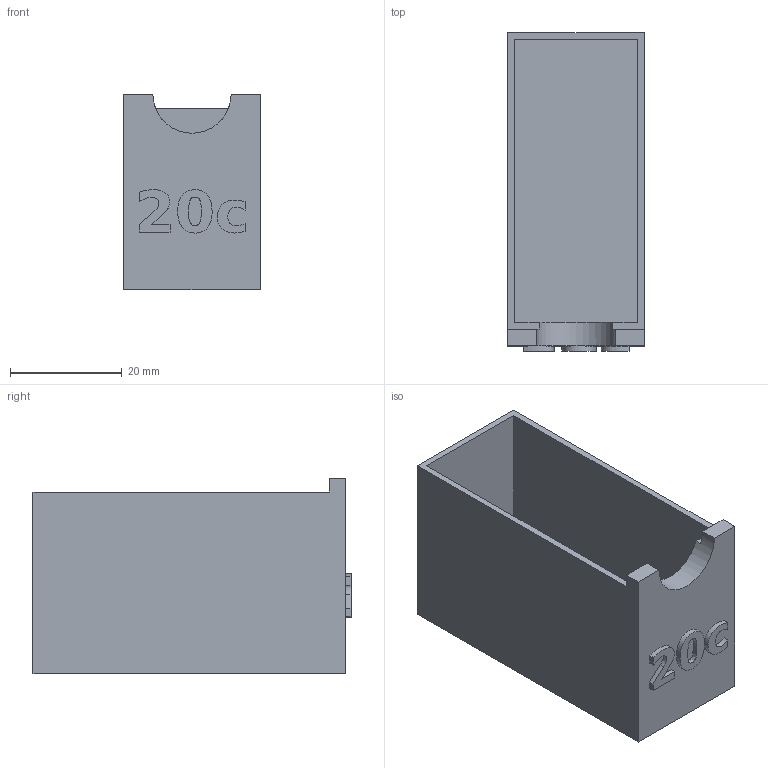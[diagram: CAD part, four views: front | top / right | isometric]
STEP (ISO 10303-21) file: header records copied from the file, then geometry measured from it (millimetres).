
FILE_DESCRIPTION(('Open CASCADE Model'),'2;1');
FILE_NAME('Open CASCADE Shape Model','2026-10-20T15:47:44',('Author'),( 'Open CASCADE'),'Open CASCADE STEP processor 8.0','build123d', 'Unknown');
FILE_SCHEMA(('AUTOMOTIVE_DESIGN { 1 0 10303 214 1 1 1 1 }'));
Length unit declared in the file: millimetre
Products named in the file (2): =>[0:1:1:2]; COMPOUND
Assembly tree (1 placements, depth 2):
  =>[0:1:1:2]
    COMPOUND
Bounding box: 24.41 x 56.84 x 35 mm (x, y, z)
Volume: 9524.4 mm3; surface area: 12591.2 mm2
Topology: 1 solids, 1 shells, 35 faces, 87 edges, 58 vertices
Faces by surface type: plane 28, extrusion 6, cylinder 1
Entity records: 2382 total; most frequent: CARTESIAN_POINT 646, DIRECTION 289, VECTOR 219, LINE 213, ORIENTED_EDGE 174, PCURVE 174, DEFINITIONAL_REPRESENTATION 174, EDGE_CURVE 87
